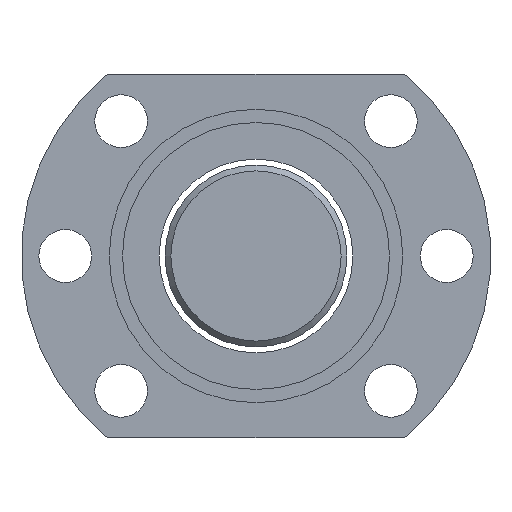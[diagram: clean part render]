
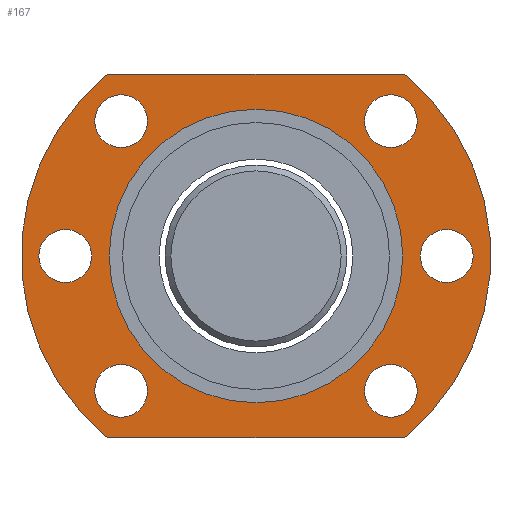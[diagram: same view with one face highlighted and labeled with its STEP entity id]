
A CAD part, left-side view. The second image highlights one B-rep face of the part: STEP entity #167.
In plain terms, the highlighted planar face has unit normal (-1, 0, 0).
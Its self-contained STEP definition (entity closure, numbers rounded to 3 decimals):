
#113=LINE('',#1132,#121);
#114=LINE('',#1136,#122);
#121=VECTOR('',#930,1.);
#122=VECTOR('',#933,1.);
#136=PLANE('',#782);
#167=ADVANCED_FACE('',(#267,#268,#269,#270,#271,#272,#273,#274),#136,.T.);
#267=FACE_BOUND('',#367,.T.);
#268=FACE_BOUND('',#368,.T.);
#269=FACE_BOUND('',#369,.T.);
#270=FACE_BOUND('',#370,.T.);
#271=FACE_BOUND('',#371,.T.);
#272=FACE_BOUND('',#372,.T.);
#273=FACE_BOUND('',#373,.T.);
#274=FACE_BOUND('',#374,.T.);
#367=EDGE_LOOP('',(#476));
#368=EDGE_LOOP('',(#477));
#369=EDGE_LOOP('',(#478,#479,#480,#481));
#370=EDGE_LOOP('',(#482));
#371=EDGE_LOOP('',(#483));
#372=EDGE_LOOP('',(#484));
#373=EDGE_LOOP('',(#485));
#374=EDGE_LOOP('',(#486));
#476=ORIENTED_EDGE('',*,*,#641,.T.);
#477=ORIENTED_EDGE('',*,*,#630,.F.);
#478=ORIENTED_EDGE('',*,*,#642,.T.);
#479=ORIENTED_EDGE('',*,*,#643,.T.);
#480=ORIENTED_EDGE('',*,*,#644,.T.);
#481=ORIENTED_EDGE('',*,*,#645,.T.);
#482=ORIENTED_EDGE('',*,*,#646,.F.);
#483=ORIENTED_EDGE('',*,*,#647,.F.);
#484=ORIENTED_EDGE('',*,*,#648,.F.);
#485=ORIENTED_EDGE('',*,*,#649,.T.);
#486=ORIENTED_EDGE('',*,*,#650,.T.);
#572=VERTEX_POINT('',#1104);
#583=VERTEX_POINT('',#1128);
#584=VERTEX_POINT('',#1130);
#585=VERTEX_POINT('',#1131);
#586=VERTEX_POINT('',#1133);
#587=VERTEX_POINT('',#1135);
#588=VERTEX_POINT('',#1138);
#589=VERTEX_POINT('',#1140);
#590=VERTEX_POINT('',#1142);
#591=VERTEX_POINT('',#1144);
#592=VERTEX_POINT('',#1146);
#630=EDGE_CURVE('',#572,#572,#692,.T.);
#641=EDGE_CURVE('',#583,#583,#701,.T.);
#642=EDGE_CURVE('',#584,#585,#702,.T.);
#643=EDGE_CURVE('',#585,#586,#113,.T.);
#644=EDGE_CURVE('',#586,#587,#703,.T.);
#645=EDGE_CURVE('',#587,#584,#114,.T.);
#646=EDGE_CURVE('',#588,#588,#704,.T.);
#647=EDGE_CURVE('',#589,#589,#705,.T.);
#648=EDGE_CURVE('',#590,#590,#706,.T.);
#649=EDGE_CURVE('',#591,#591,#707,.T.);
#650=EDGE_CURVE('',#592,#592,#708,.T.);
#692=CIRCLE('',#763,25.);
#701=CIRCLE('',#774,4.5);
#702=CIRCLE('',#775,40.);
#703=CIRCLE('',#776,40.);
#704=CIRCLE('',#777,4.5);
#705=CIRCLE('',#778,4.5);
#706=CIRCLE('',#779,4.5);
#707=CIRCLE('',#780,4.5);
#708=CIRCLE('',#781,4.5);
#763=AXIS2_PLACEMENT_3D('',#1103,#902,#903);
#774=AXIS2_PLACEMENT_3D('',#1127,#926,#927);
#775=AXIS2_PLACEMENT_3D('',#1129,#928,#929);
#776=AXIS2_PLACEMENT_3D('',#1134,#931,#932);
#777=AXIS2_PLACEMENT_3D('',#1137,#934,#935);
#778=AXIS2_PLACEMENT_3D('',#1139,#936,#937);
#779=AXIS2_PLACEMENT_3D('',#1141,#938,#939);
#780=AXIS2_PLACEMENT_3D('',#1143,#940,#941);
#781=AXIS2_PLACEMENT_3D('',#1145,#942,#943);
#782=AXIS2_PLACEMENT_3D('',#1147,#944,#945);
#902=DIRECTION('',(-1.,0.,0.));
#903=DIRECTION('',(0.,0.,-1.));
#926=DIRECTION('',(1.,0.,0.));
#927=DIRECTION('',(0.,0.,1.));
#928=DIRECTION('',(-1.,0.,0.));
#929=DIRECTION('',(0.,0.,-1.));
#930=DIRECTION('',(0.,-1.,0.));
#931=DIRECTION('',(-1.,0.,0.));
#932=DIRECTION('',(0.,0.,-1.));
#933=DIRECTION('',(0.,1.,0.));
#934=DIRECTION('',(-1.,0.,0.));
#935=DIRECTION('',(0.,0.,1.));
#936=DIRECTION('',(-1.,0.,0.));
#937=DIRECTION('',(0.,0.,1.));
#938=DIRECTION('',(-1.,0.,0.));
#939=DIRECTION('',(0.,0.,1.));
#940=DIRECTION('',(1.,0.,0.));
#941=DIRECTION('',(0.,0.,1.));
#942=DIRECTION('',(1.,0.,0.));
#943=DIRECTION('',(0.,0.,1.));
#944=DIRECTION('',(-1.,0.,0.));
#945=DIRECTION('',(0.,0.,1.));
#1103=CARTESIAN_POINT('',(-376.242,-124.869,-15.771));
#1104=CARTESIAN_POINT('',(-376.242,-124.869,-40.771));
#1127=CARTESIAN_POINT('',(-376.242,-157.369,-15.771));
#1128=CARTESIAN_POINT('',(-376.242,-157.369,-11.271));
#1129=CARTESIAN_POINT('',(-376.242,-124.869,-15.771));
#1130=CARTESIAN_POINT('',(-376.242,-99.59,15.229));
#1131=CARTESIAN_POINT('',(-376.242,-99.59,-46.771));
#1132=CARTESIAN_POINT('',(-376.242,-99.59,-46.771));
#1133=CARTESIAN_POINT('',(-376.242,-150.147,-46.771));
#1134=CARTESIAN_POINT('',(-376.242,-124.869,-15.771));
#1135=CARTESIAN_POINT('',(-376.242,-150.147,15.229));
#1136=CARTESIAN_POINT('',(-376.242,-150.147,15.229));
#1137=CARTESIAN_POINT('',(-376.242,-92.369,-15.771));
#1138=CARTESIAN_POINT('',(-376.242,-92.369,-11.271));
#1139=CARTESIAN_POINT('',(-376.242,-101.888,7.21));
#1140=CARTESIAN_POINT('',(-376.242,-101.888,11.71));
#1141=CARTESIAN_POINT('',(-376.242,-101.888,-38.752));
#1142=CARTESIAN_POINT('',(-376.242,-101.888,-34.252));
#1143=CARTESIAN_POINT('',(-376.242,-147.85,-38.752));
#1144=CARTESIAN_POINT('',(-376.242,-147.85,-34.252));
#1145=CARTESIAN_POINT('',(-376.242,-147.85,7.21));
#1146=CARTESIAN_POINT('',(-376.242,-147.85,11.71));
#1147=CARTESIAN_POINT('',(-376.242,-124.869,-15.771));
